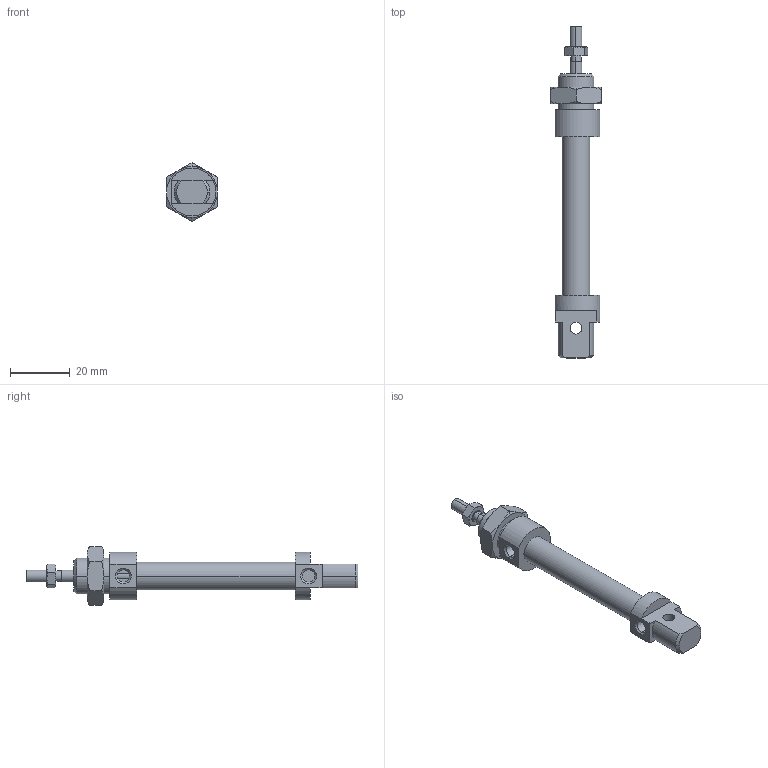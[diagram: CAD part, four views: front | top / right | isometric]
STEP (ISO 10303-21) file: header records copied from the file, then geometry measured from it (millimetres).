
FILE_DESCRIPTION((''),'2;1');
FILE_NAME('I:\DOC-EDP\Lib-3d\1200\CILINDRI\1280\1280_08_0025.stp','2003-04-07T14:43:13',('maffial1'),(''),'Autodesk Inventor (R) 6.0','Autodesk Inventor (R) 6.0','');
FILE_SCHEMA(('AUTOMOTIVE_DESIGN { 1 0 10303 214 1 1 1 1 }'));
Length unit declared in the file: millimetre
Products named in the file (5): 1280_08_0025; S1280_08_25; 1200_08_05; 1200_08_06; C1280_08_25
Assembly tree (4 placements, depth 2):
  1280_08_0025
    S1280_08_25
    1200_08_05
    1200_08_06
    C1280_08_25
Bounding box: 17 x 111 x 19.63 mm (x, y, z)
Volume: 10022.2 mm3; surface area: 6417.6 mm2
Topology: 4 solids, 4 shells, 117 faces, 261 edges, 158 vertices
Faces by surface type: cone 40, plane 34, cylinder 22, bspline 21
Entity records: 3582 total; most frequent: CARTESIAN_POINT 992, DIRECTION 531, ORIENTED_EDGE 522, EDGE_CURVE 261, AXIS2_PLACEMENT_3D 221, VERTEX_POINT 158, EDGE_LOOP 131, FACE_OUTER_BOUND 117
